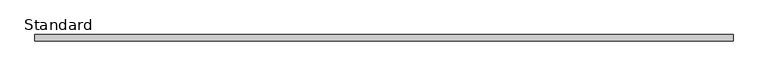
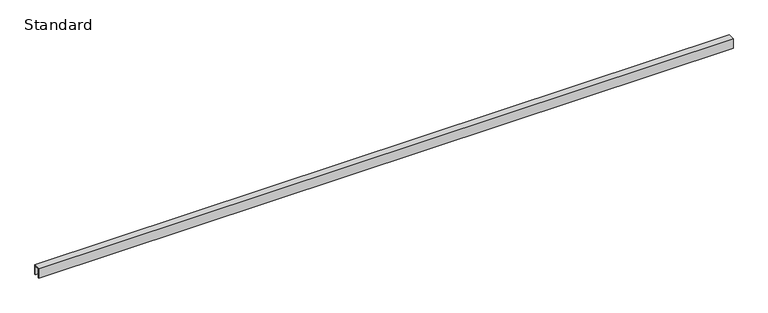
"""IFC4 building model written with IfcOpenShell, lengths in millimetres: furniture geometry, X_Partition-Channel-Duracube-Ceiling : Standard."""

from ifc_helpers import new_model, si_unit, frame, origin, place, context, project, spatial, polyline, outline, extrude, source, transform, mapped, element, save


def standard_0b3fbc73(model_context):
    return source(origin(), model_context, "Body", "SweptSolid", [
        extrude(outline(polyline([(0.0, 0.0), (-2.0, 0.0), (-2.0, 24.0), (-15.0, 24.0), (-15.0, 0.0), (-17.0, 0.0), (-17.0, 26.0), (0.0, 26.0), (0.0, 0.0)])), frame((-857.2996736, 0.0, 0.0), z_axis=(1.0, 0.0, 0.0), x_axis=(0.0, 1.0, 0.0)), (0.0, 0.0, 1.0), 1804.0),
    ])


if __name__ == "__main__":
    model = new_model("IFC4")
    model_context = context("Model", 3, world=origin())
    ifc_project = project(units=[si_unit("LENGTHUNIT", "METRE", prefix="MILLI")], contexts=[model_context])
    site = spatial("IfcSite", under=ifc_project)
    building = spatial("IfcBuilding", under=site)
    placement = place(None, origin())
    standard_shape = standard_0b3fbc73(model_context)
    element("IfcFurniture", 1, ObjectType="X_Partition-Channel-Duracube-Ceiling : Standard", at=placement, inside=building, context=model_context, shape_type="MappedRepresentation", body=[
        mapped(standard_shape, transform((0.0, 0.0, 0.0), x_axis=(1.0, 0.0, 0.0), y_axis=(0.0, 1.0, 0.0), z_axis=(0.0, 0.0, 1.0))),
    ])
    save(model, "model.ifc")
